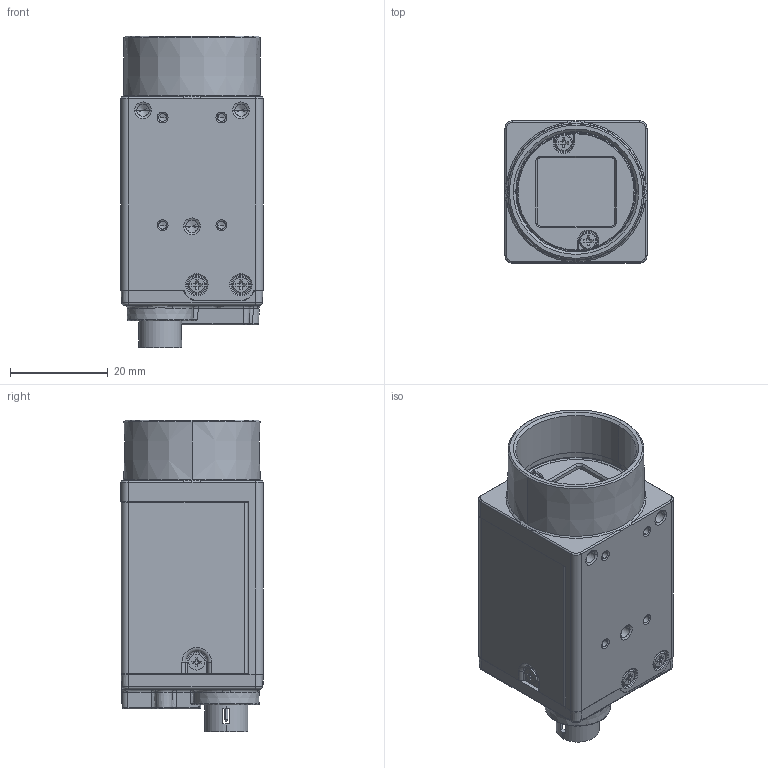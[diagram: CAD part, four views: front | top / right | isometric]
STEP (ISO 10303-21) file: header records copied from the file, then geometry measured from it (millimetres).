
FILE_DESCRIPTION((''),'2;1');
FILE_NAME('DH9-RDI000304-6031_AF0_1','2023-11-22T16:28:16',('21511'),(''),'CREO PARAMETRIC BY PTC INC, 2020184','CREO PARAMETRIC BY PTC INC, 2020184','');
FILE_SCHEMA(('CONFIG_CONTROL_DESIGN','SHAPE_APPEARANCE_LAYERS_GROUPS'));
Products named in the file (1): DH9-RDI000304-6031_AF0_1
Bounding box: 29 x 29 x 63.6 mm (x, y, z)
Volume: 36105.4 mm3; surface area: 21843.2 mm2
Topology: 1 solids, 13 shells, 2025 faces, 5441 edges, 3432 vertices
Faces by surface type: plane 1063, cylinder 565, cone 187, bspline 79, extrusion 57, torus 52, sphere 22
Entity records: 85436 total; most frequent: CARTESIAN_POINT 18670, ORIENTED_EDGE 10758, DIRECTION 9946, PRESENTATION_STYLE_ASSIGNMENT 5419, STYLED_ITEM 5380, CURVE_STYLE 5379, EDGE_CURVE 5379, VECTOR 3522
